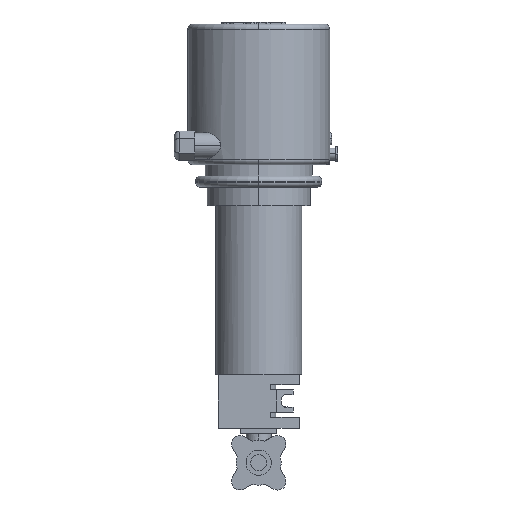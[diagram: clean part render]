
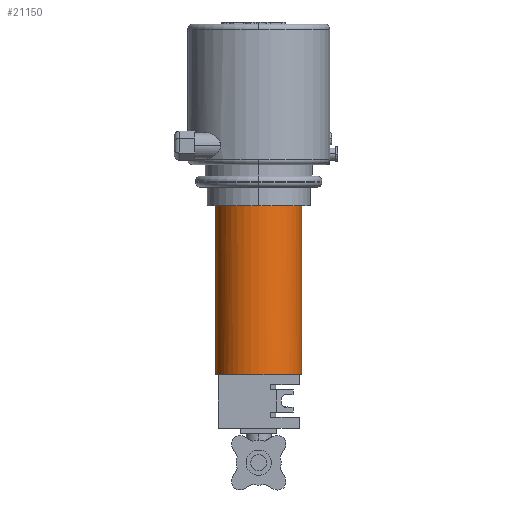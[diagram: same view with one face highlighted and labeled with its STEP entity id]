
A CAD part, left-side view. The second image highlights one B-rep face of the part: STEP entity #21150.
In plain terms, the highlighted cylindrical face has radius 42.5 mm (diameter 85 mm), a partial arc.
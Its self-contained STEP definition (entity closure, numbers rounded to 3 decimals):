
#9080=CARTESIAN_POINT('',(-27.861,-24.06,
6.422));
#9090=VERTEX_POINT('',#9080);
#9630=CARTESIAN_POINT('',(-13.5,4.225,34.707));
#9640=DIRECTION('',(0.,0.707,
-0.707));
#9650=DIRECTION('',(0.,-0.707,
-0.707));
#9660=AXIS2_PLACEMENT_3D('',#9630,#9640,#9650);
#9670=CIRCLE('',#9660,42.5);
#14810=CARTESIAN_POINT('',(-27.861,32.509,
62.991));
#14820=VERTEX_POINT('',#14810);
#15370=CARTESIAN_POINT('',(-53.5,14.38,
44.862));
#15380=VERTEX_POINT('',#15370);
#15450=CARTESIAN_POINT('',(-53.5,-5.93,
24.552));
#15460=VERTEX_POINT('',#15450);
#20540=EDGE_CURVE('',#15380,#14820,#9670,.T.);
#20680=EDGE_CURVE('',#9090,#15460,#9670,.T.);
#20730=CARTESIAN_POINT('',(-13.5,-54.819,
93.75));
#20740=DIRECTION('',(0.,0.707,
-0.707));
#20750=DIRECTION('',(0.,-0.707,
-0.707));
#20760=AXIS2_PLACEMENT_3D('',#20730,#20740,#20750);
#20770=CYLINDRICAL_SURFACE('',#20760,42.5);
#20780=ORIENTED_EDGE('',*,*,#20680,.F.);
#20790=EDGE_CURVE('',#15460,#15380,#9670,.T.);
#20800=ORIENTED_EDGE('',*,*,#20790,.F.);
#20810=ORIENTED_EDGE('',*,*,#20540,.F.);
#20820=CARTESIAN_POINT('',(-13.5,34.277,
64.759));
#20830=VERTEX_POINT('',#20820);
#20840=EDGE_CURVE('',#14820,#20830,#9670,.T.);
#20850=ORIENTED_EDGE('',*,*,#20840,.F.);
#20860=CARTESIAN_POINT('',(-13.5,-24.767,123.802));
#20870=DIRECTION('',(0.,0.707,
-0.707));
#20880=VECTOR('',#20870,1.);
#20890=LINE('',#20860,#20880);
#20900=CARTESIAN_POINT('',(-13.5,-83.81,
182.846));
#20910=VERTEX_POINT('',#20900);
#20920=EDGE_CURVE('',#20910,#20830,#20890,.T.);
#20930=ORIENTED_EDGE('',*,*,#20920,.T.);
#20940=CARTESIAN_POINT('',(-13.5,-113.862,
152.794));
#20950=DIRECTION('',(0.,-0.707,
0.707));
#20960=DIRECTION('',(0.,-0.707,
-0.707));
#20970=AXIS2_PLACEMENT_3D('',#20940,#20950,#20960);
#20980=CIRCLE('',#20970,42.5);
#20990=CARTESIAN_POINT('',(-13.5,-143.914,
122.741));
#21000=VERTEX_POINT('',#20990);
#21010=EDGE_CURVE('',#20910,#21000,#20980,.T.);
#21020=ORIENTED_EDGE('',*,*,#21010,.F.);
#21030=CARTESIAN_POINT('',(-13.5,-84.871,
63.698));
#21040=DIRECTION('',(0.,0.707,
-0.707));
#21050=VECTOR('',#21040,1.);
#21060=LINE('',#21030,#21050);
#21070=CARTESIAN_POINT('',(-13.5,-25.827,4.655));
#21080=VERTEX_POINT('',#21070);
#21090=EDGE_CURVE('',#21000,#21080,#21060,.T.);
#21100=ORIENTED_EDGE('',*,*,#21090,.F.);
#21110=EDGE_CURVE('',#21080,#9090,#9670,.T.);
#21120=ORIENTED_EDGE('',*,*,#21110,.F.);
#21130=EDGE_LOOP('',(#21120,#21100,#21020,#20930,#20850,#20810,#20800,
#20780));
#21140=FACE_OUTER_BOUND('',#21130,.T.);
#21150=ADVANCED_FACE('',(#21140),#20770,.T.);
